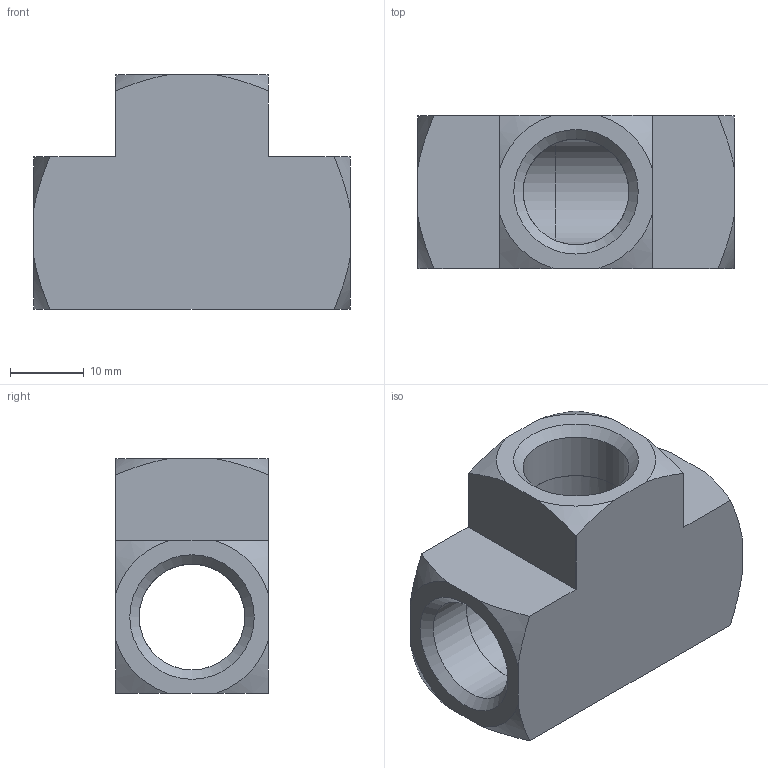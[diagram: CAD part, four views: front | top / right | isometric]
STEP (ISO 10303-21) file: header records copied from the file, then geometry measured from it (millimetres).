
FILE_DESCRIPTION(/* description */ (''),/* implementation_level */ '2;1');
FILE_NAME(/* name */ 'C:/Users/drich/Desktop/T-38 v1.step',/* time_stamp */ '2020-02-09T11:08:00-06:00',/* author */ (''),/* organization */ (''),/* preprocessor_version */ 'ST-DEVELOPER v18',/* originating_system */ 'Autodesk Translation Framework v8.12.0.6',/* authorisation */ '');
FILE_SCHEMA (('AUTOMOTIVE_DESIGN { 1 0 10303 214 3 1 1 }'));
Length unit declared in the file: inch
Products named in the file (1): T-38
Bounding box: 42.82 x 20.65 x 31.75 mm (x, y, z)
Volume: 13411.8 mm3; surface area: 7074.9 mm2
Topology: 1 solids, 1 shells, 40 faces, 111 edges, 75 vertices
Faces by surface type: cone 17, plane 13, cylinder 10
Full cylindrical faces by diameter (mm): 14.275 x3, 14.3 x3
Entity records: 1340 total; most frequent: CARTESIAN_POINT 286, ORIENTED_EDGE 222, DIRECTION 215, EDGE_CURVE 111, AXIS2_PLACEMENT_3D 89, VERTEX_POINT 75, EDGE_LOOP 46, CIRCLE 43
